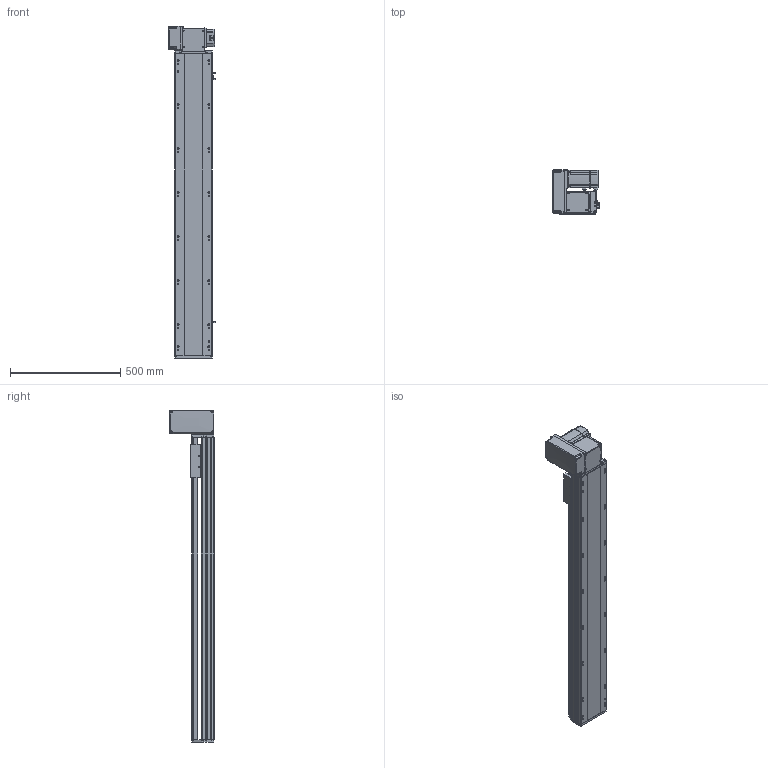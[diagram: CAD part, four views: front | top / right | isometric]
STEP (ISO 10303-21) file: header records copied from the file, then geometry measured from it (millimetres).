
FILE_DESCRIPTION (( 'STEP AP214' ), '1' );
FILE_NAME ('RTB17S-XX-1100-LW-M75-C4.STEP', '2025-12-12T01:04:29', ( '' ), ( '' ), 'SwSTEP 2.0', 'SolidWorks 2018', '' );
FILE_SCHEMA (( 'AUTOMOTIVE_DESIGN' ));
Length unit declared in the file: millimetre
Products named in the file (15): RTB17S-L-001-耜醱啣^RTB17S-XX-XX-LW-M75-C4; RTB17S-XX-1100-LW-M75-C4; RTB17S-LW-々湍釱蚾饜-750W^RTB17S-XX-XX-LW-M75-C4; RTB22S-GY-005P^RTB17S-LW-々湍釱蚾饜-750W_RTB17S-XX-XX-LW-M75-C4; RTB17S-L-014-T20-P75--々湍釱^RTB17S-LW-々湍釱蚾饜-750W_RTB17S-XX-XX-LW-M75-C4; 750W萇儂^RTB17S-XX-XX-LW-M75-C4; RTB22S-GY-008-M75--萇儂啣^RTB17S-LW-々湍釱蚾饜-750W_RTB17S-XX-XX-LW-M75-C4; RTB17-R-011菁釱^RTB17S-XX-XX-LW-M75-C4; RTB17S-L-007奻裔^RTB17S-XX-XX-LW-M75-C4; RTB17S-賑釱^RTB17S-XX-XX-LW-M75-C4; RTB17S-L-004-賑釱^RTB17S-賑釱_RTB17S-XX-XX-LW-M75-C4; RTB22S-GY-017P^RTB17S-LW-々湍釱蚾饜-750W_RTB17S-XX-XX-LW-M75-C4; RTH13-BL-012覜茼え俋离^RTB17S-賑釱_RTB17S-XX-XX-LW-M75-C4; EE672^RTB17S-XX-XX-LW-M75-C4; RTB22S-GY-018P^RTB17S-LW-々湍釱蚾饜-750W_RTB17S-XX-XX-LW-M75-C4
Assembly tree (17 placements, depth 3):
  RTB17S-XX-1100-LW-M75-C4
    RTB17-R-011菁釱^RTB17S-XX-XX-LW-M75-C4
    EE672^RTB17S-XX-XX-LW-M75-C4  x3
    RTB17S-L-001-耜醱啣^RTB17S-XX-XX-LW-M75-C4
    RTB17S-賑釱^RTB17S-XX-XX-LW-M75-C4
      RTB17S-L-004-賑釱^RTB17S-賑釱_RTB17S-XX-XX-LW-M75-C4
      RTH13-BL-012覜茼え俋离^RTB17S-賑釱_RTB17S-XX-XX-LW-M75-C4
    RTB17S-L-007奻裔^RTB17S-XX-XX-LW-M75-C4
    750W萇儂^RTB17S-XX-XX-LW-M75-C4
    RTB17S-LW-々湍釱蚾饜-750W^RTB17S-XX-XX-LW-M75-C4
      RTB17S-L-014-T20-P75--々湍釱^RTB17S-LW-々湍釱蚾饜-750W_RTB17S-XX-XX-LW-M75-C4
      RTB22S-GY-005P^RTB17S-LW-々湍釱蚾饜-750W_RTB17S-XX-XX-LW-M75-C4
      RTB22S-GY-017P^RTB17S-LW-々湍釱蚾饜-750W_RTB17S-XX-XX-LW-M75-C4  x2
      RTB22S-GY-008-M75--萇儂啣^RTB17S-LW-々湍釱蚾饜-750W_RTB17S-XX-XX-LW-M75-C4
      RTB22S-GY-018P^RTB17S-LW-々湍釱蚾饜-750W_RTB17S-XX-XX-LW-M75-C4
Bounding box: 210.4 x 201.5 x 1507.5 mm (x, y, z)
Volume: 12823633.8 mm3; surface area: 2194651.3 mm2
Topology: 17 solids, 17 shells, 2105 faces, 5836 edges, 3770 vertices
Faces by surface type: plane 972, cylinder 717, bspline 294, cone 110, sphere 8, torus 4
Entity records: 58870 total; most frequent: CARTESIAN_POINT 17300, ORIENTED_EDGE 8516, DIRECTION 7952, EDGE_CURVE 4258, AXIS2_PLACEMENT_3D 2790, VERTEX_POINT 2774, VECTOR 2372, LINE 2372
